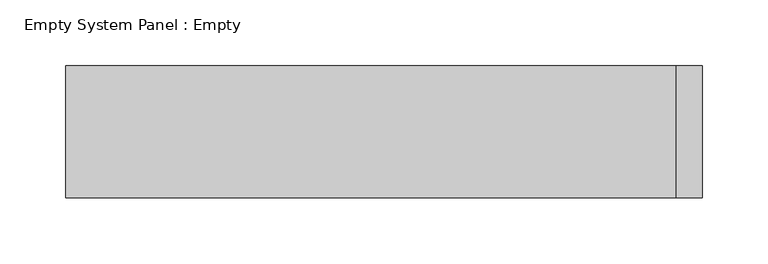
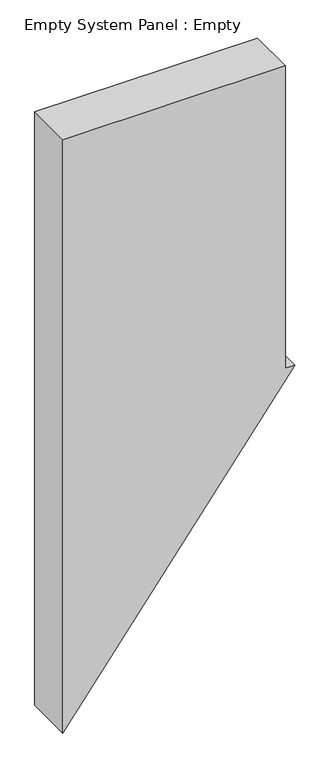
"""IFC4 building model written with IfcOpenShell, lengths in millimetres: plate geometry, Empty System Panel : Empty."""

from ifc_helpers import new_model, si_unit, frame, origin, place, context, project, spatial, polyline, outline, extrude, source, transform, mapped, element, save


def empty_system_panel_empty_396ca03b(model_context):
    return source(origin(), model_context, "Body", "SweptSolid", [
        extrude(outline(polyline([(0.0, -241.6440778), (638.4419452, 241.6440778), (638.4419452, 221.6440778), (1303.3046478, 221.6440778), (1303.3046478, -241.6440778), (0.0, -241.6440778)])), frame((0.0, -50.0, 0.0), z_axis=(0.0, 1.0, 0.0), x_axis=(0.0, 0.0, 1.0)), (0.0, 0.0, 1.0), 100.0),
    ])


if __name__ == "__main__":
    model = new_model("IFC4")
    model_context = context("Model", 3, world=origin())
    ifc_project = project(units=[si_unit("LENGTHUNIT", "METRE", prefix="MILLI")], contexts=[model_context])
    site = spatial("IfcSite", under=ifc_project)
    building = spatial("IfcBuilding", under=site)
    placement = place(None, origin())
    empty_system_panel_empty_shape = empty_system_panel_empty_396ca03b(model_context)
    element("IfcPlate", 1, ObjectType="Empty System Panel : Empty", at=placement, inside=building, context=model_context, shape_type="MappedRepresentation", body=[
        mapped(empty_system_panel_empty_shape, transform((0.0, 0.0, 0.0), x_axis=(1.0, 0.0, 0.0), y_axis=(0.0, 1.0, 0.0), z_axis=(0.0, 0.0, 1.0))),
    ])
    save(model, "model.ifc")
